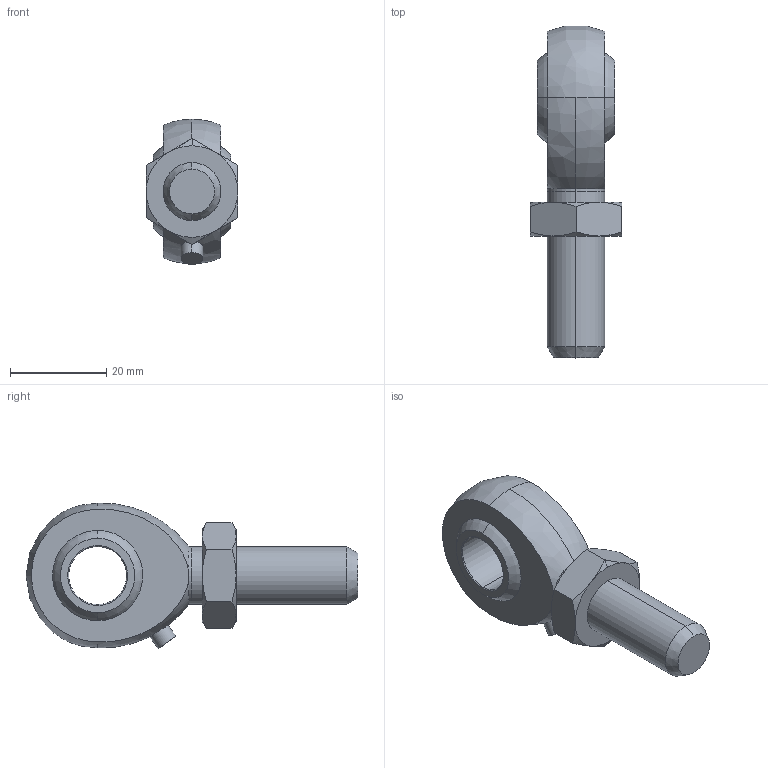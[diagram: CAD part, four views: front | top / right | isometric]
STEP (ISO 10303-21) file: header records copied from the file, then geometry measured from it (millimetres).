
FILE_DESCRIPTION (( 'STEP AP203' ), '1' );
FILE_NAME ('POS 12_set.STEP', '2018-06-06T04:05:08', ( '' ), ( '' ), 'SwSTEP 2.0', 'SolidWorks 2014', '' );
FILE_SCHEMA (( 'CONFIG_CONTROL_DESIGN' ));
Length unit declared in the file: millimetre
Products named in the file (5): _POS 12 Body; _POS 12 Ball; POS 12; M12_3_nut; POS 12_set
Assembly tree (4 placements, depth 3):
  POS 12_set
    POS 12
      _POS 12 Body
      _POS 12 Ball
    M12_3_nut
Bounding box: 19 x 68.86 x 30.18 mm (x, y, z)
Volume: 13858.5 mm3; surface area: 7204.4 mm2
Topology: 3 solids, 3 shells, 52 faces, 115 edges, 67 vertices
Faces by surface type: cone 15, plane 14, bspline 9, cylinder 8, torus 6
Entity records: 2761 total; most frequent: CARTESIAN_POINT 1169, DIRECTION 231, ORIENTED_EDGE 222, EDGE_CURVE 111, AXIS2_PLACEMENT_3D 107, VERTEX_POINT 67, EDGE_LOOP 60, CIRCLE 56
